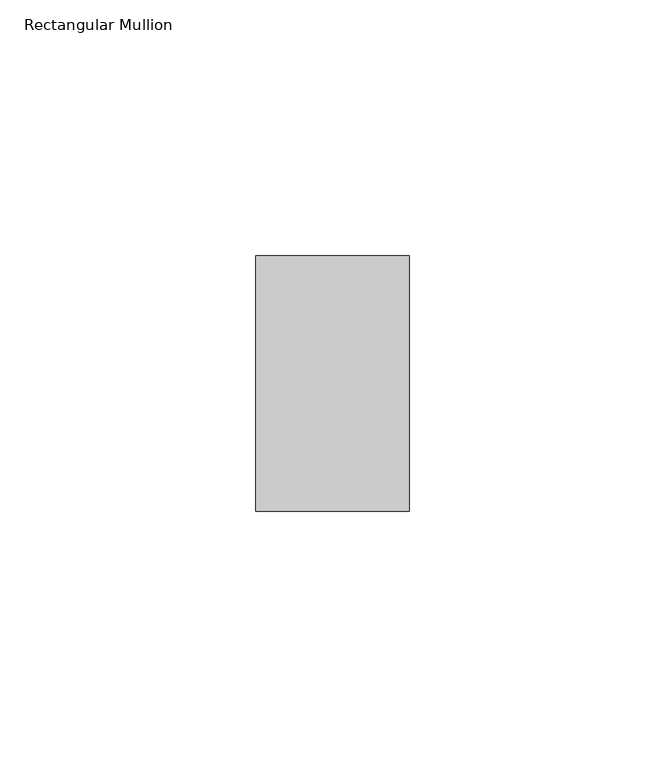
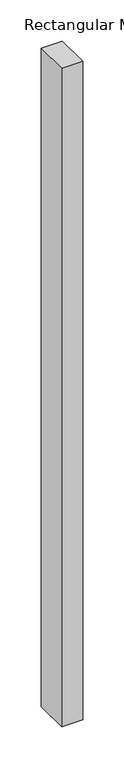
"""IFC4 building model written with IfcOpenShell, lengths in millimetres: member geometry, Rectangular Mullion : ARQ_TV_MULL_50x30mm."""

from ifc_helpers import new_model, si_unit, frame, origin, place, context, project, spatial, polyline, outline, extrude, source, transform, mapped, element, save


def rectangular_mullion_56379c35(model_context):
    return source(origin(), model_context, "Body", "SweptSolid", [
        extrude(outline(polyline([(0.0, 25.0), (0.0, -25.0), (-30.0, -25.0), (-30.0, 25.0), (0.0, 25.0)])), frame((0.0, 0.0, -979.7664683), z_axis=(0.0, 0.0, 1.0), x_axis=(1.0, 0.0, 0.0)), (0.0, 0.0, 1.0), 979.7664683),
    ])


if __name__ == "__main__":
    model = new_model("IFC4")
    model_context = context("Model", 3, world=origin())
    ifc_project = project(units=[si_unit("LENGTHUNIT", "METRE", prefix="MILLI")], contexts=[model_context])
    site = spatial("IfcSite", under=ifc_project)
    building = spatial("IfcBuilding", under=site)
    placement = place(None, origin())
    rectangular_mullion_shape = rectangular_mullion_56379c35(model_context)
    element("IfcMember", 1, ObjectType="Rectangular Mullion : ARQ_TV_MULL_50x30mm", at=placement, inside=building, context=model_context, shape_type="MappedRepresentation", body=[
        mapped(rectangular_mullion_shape, transform((0.0, 0.0, 0.0), x_axis=(1.0, 0.0, 0.0), y_axis=(0.0, 1.0, 0.0), z_axis=(0.0, 0.0, 1.0))),
    ])
    save(model, "model.ifc")
